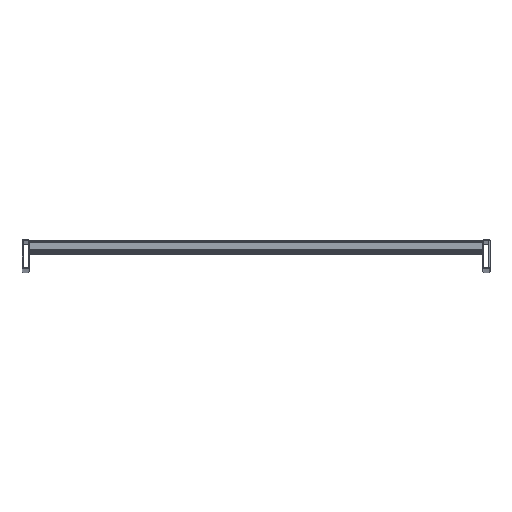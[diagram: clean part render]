
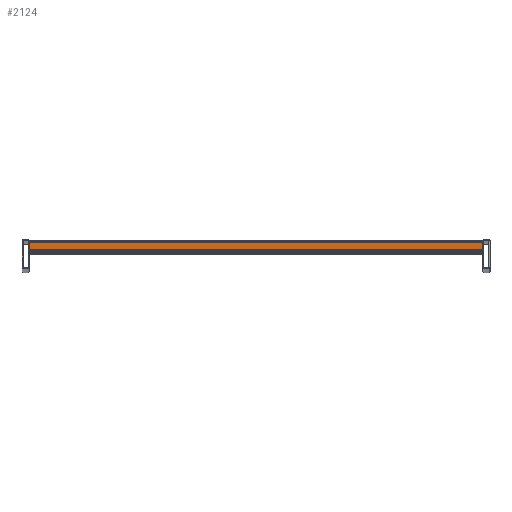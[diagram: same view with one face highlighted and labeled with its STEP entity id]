
A CAD part, top view. The second image highlights one B-rep face of the part: STEP entity #2124.
In plain terms, the highlighted planar face has unit normal (0, 0, 1).
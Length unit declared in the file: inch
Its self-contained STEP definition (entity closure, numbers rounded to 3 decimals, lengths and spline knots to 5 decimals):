
#481 = CARTESIAN_POINT ( 'NONE',  ( 19685.03937, 1.013, -5. ) ) ;
#495 = DIRECTION ( 'NONE',  ( 1., 0., 0. ) ) ;
#503 = DIRECTION ( 'NONE',  ( -1., 0., 0. ) ) ;
#528 = CARTESIAN_POINT ( 'NONE',  ( 19685.03937, 1.363, -5. ) ) ;
#1361 = DIRECTION ( 'NONE',  ( 0., -1., 0. ) ) ;
#1362 = CARTESIAN_POINT ( 'NONE',  ( 0.375, 1.438, -5. ) ) ;
#1366 = DIRECTION ( 'NONE',  ( 0., 1., 0. ) ) ;
#1367 = CARTESIAN_POINT ( 'NONE',  ( 23.625, 1.438, -5. ) ) ;
#1614 = VERTEX_POINT ( 'NONE', #5515 ) ;
#1681 = VERTEX_POINT ( 'NONE', #5420 ) ;
#1693 = VERTEX_POINT ( 'NONE', #5407 ) ;
#1748 = VERTEX_POINT ( 'NONE', #5311 ) ;
#1929 = VECTOR ( 'NONE', #1366, 39.37008 ) ;
#1930 = VECTOR ( 'NONE', #1361, 39.37008 ) ;
#1937 = LINE ( 'NONE', #1362, #1930 ) ;
#1940 = LINE ( 'NONE', #1367, #1929 ) ;
#2124 = ADVANCED_FACE ( 'NONE', ( #3837 ), #4656, .F. ) ;
#2499 = ORIENTED_EDGE ( 'NONE', *, *, #6951, .T. ) ;
#2508 = ORIENTED_EDGE ( 'NONE', *, *, #3411, .T. ) ;
#2519 = ORIENTED_EDGE ( 'NONE', *, *, #6940, .T. ) ;
#2523 = ORIENTED_EDGE ( 'NONE', *, *, #3409, .T. ) ;
#2828 = LINE ( 'NONE', #528, #2829 ) ;
#2829 = VECTOR ( 'NONE', #503, 39.37008 ) ;
#2849 = LINE ( 'NONE', #481, #2850 ) ;
#2850 = VECTOR ( 'NONE', #495, 39.37008 ) ;
#3409 = EDGE_CURVE ( 'NONE', #1681, #1693, #1940, .T. ) ;
#3411 = EDGE_CURVE ( 'NONE', #1614, #1748, #1937, .T. ) ;
#3540 = AXIS2_PLACEMENT_3D ( 'NONE', #4663, #4648, #4646 ) ;
#3837 = FACE_OUTER_BOUND ( 'NONE', #7550, .T. ) ;
#4646 = DIRECTION ( 'NONE',  ( -1., 0., 0. ) ) ;
#4648 = DIRECTION ( 'NONE',  ( 0., 0., -1. ) ) ;
#4656 = PLANE ( 'NONE',  #3540 ) ;
#4663 = CARTESIAN_POINT ( 'NONE',  ( 19685.03937, 1.438, -5. ) ) ;
#5311 = CARTESIAN_POINT ( 'NONE',  ( 0.375, 1.013, -5. ) ) ;
#5407 = CARTESIAN_POINT ( 'NONE',  ( 23.625, 1.363, -5. ) ) ;
#5420 = CARTESIAN_POINT ( 'NONE',  ( 23.625, 1.013, -5. ) ) ;
#5515 = CARTESIAN_POINT ( 'NONE',  ( 0.375, 1.363, -5. ) ) ;
#6940 = EDGE_CURVE ( 'NONE', #1693, #1614, #2828, .T. ) ;
#6951 = EDGE_CURVE ( 'NONE', #1748, #1681, #2849, .T. ) ;
#7550 = EDGE_LOOP ( 'NONE', ( #2508, #2499, #2523, #2519 ) ) ;
